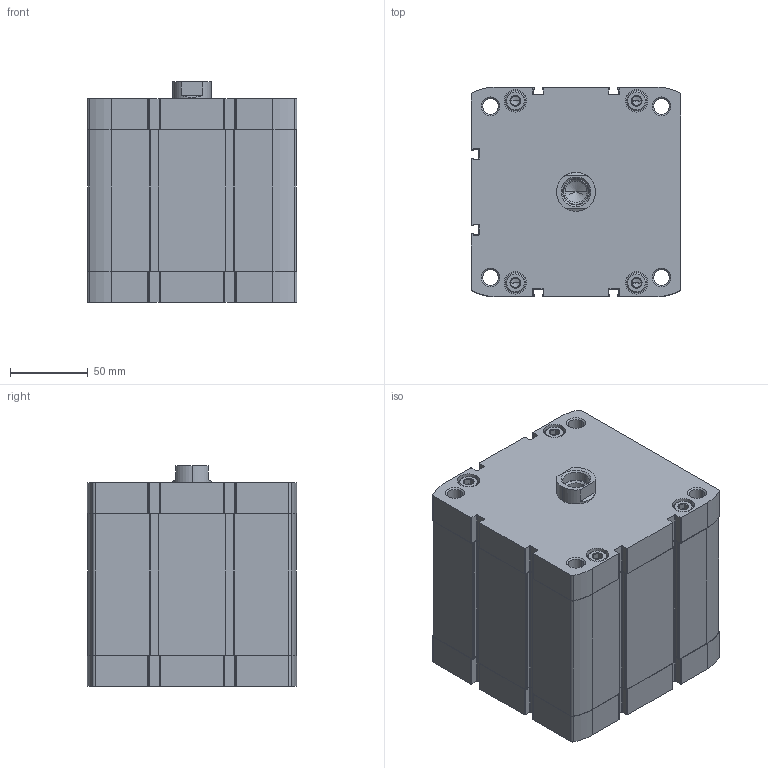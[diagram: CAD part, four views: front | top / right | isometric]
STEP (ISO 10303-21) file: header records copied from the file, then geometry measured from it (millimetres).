
FILE_DESCRIPTION (( 'STEP AP203' ), '1' );
FILE_NAME ('CCN125-50F.STEP', '2020-06-05T19:29:10', ( '' ), ( '' ), 'SwSTEP 2.0', 'SolidWorks 2019', '' );
FILE_SCHEMA (( 'CONFIG_CONTROL_DESIGN' ));
Length unit declared in the file: millimetre
Products named in the file (1): CCN125-50F
Bounding box: 134.6 x 134.6 x 142 mm (x, y, z)
Volume: 1677645.2 mm3; surface area: 240989.1 mm2
Topology: 2 solids, 2 shells, 535 faces, 1370 edges, 861 vertices
Faces by surface type: plane 267, cylinder 194, cone 74
Entity records: 17215 total; most frequent: CARTESIAN_POINT 3931, DIRECTION 2876, ORIENTED_EDGE 2704, EDGE_CURVE 1352, AXIS2_PLACEMENT_3D 1054, VERTEX_POINT 861, LINE 768, VECTOR 768
